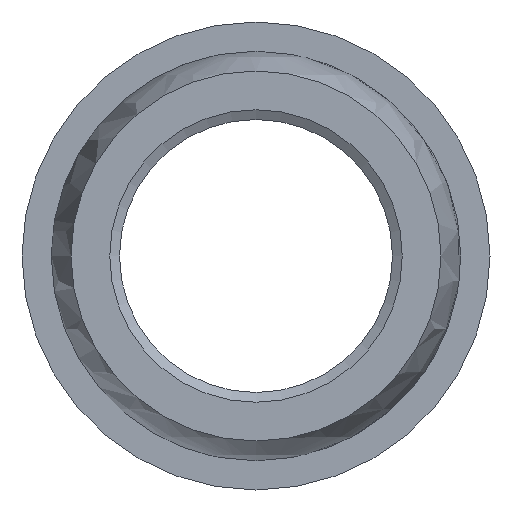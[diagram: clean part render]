
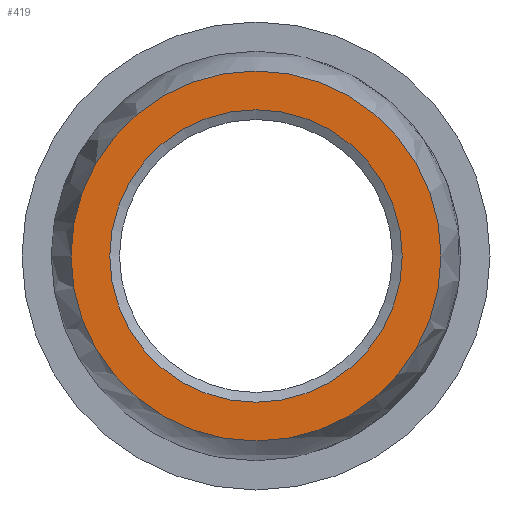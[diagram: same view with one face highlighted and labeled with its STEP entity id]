
A CAD part, front view. The second image highlights one B-rep face of the part: STEP entity #419.
In plain terms, the highlighted planar face has unit normal (0, -1, 0).
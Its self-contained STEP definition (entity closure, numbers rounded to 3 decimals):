
#27=FACE_BOUND('',#74,.T.);
#33=PLANE('',#485);
#46=FACE_OUTER_BOUND('',#73,.T.);
#73=EDGE_LOOP('',(#326));
#74=EDGE_LOOP('',(#327,#328));
#143=CIRCLE('',#484,4.743);
#144=CIRCLE('',#486,3.75);
#145=CIRCLE('',#487,3.75);
#190=VERTEX_POINT('',#739);
#191=VERTEX_POINT('',#742);
#192=VERTEX_POINT('',#743);
#242=EDGE_CURVE('',#190,#190,#143,.T.);
#243=EDGE_CURVE('',#191,#192,#144,.T.);
#244=EDGE_CURVE('',#192,#191,#145,.T.);
#326=ORIENTED_EDGE('',*,*,#242,.T.);
#327=ORIENTED_EDGE('',*,*,#243,.F.);
#328=ORIENTED_EDGE('',*,*,#244,.F.);
#419=ADVANCED_FACE('',(#46,#27),#33,.T.);
#484=AXIS2_PLACEMENT_3D('',#740,#592,#593);
#485=AXIS2_PLACEMENT_3D('',#741,#594,#595);
#486=AXIS2_PLACEMENT_3D('',#744,#596,#597);
#487=AXIS2_PLACEMENT_3D('',#745,#598,#599);
#592=DIRECTION('center_axis',(0.,-1.,0.));
#593=DIRECTION('ref_axis',(1.,0.,0.));
#594=DIRECTION('center_axis',(0.,-1.,0.));
#595=DIRECTION('ref_axis',(0.,0.,-1.));
#596=DIRECTION('center_axis',(0.,-1.,0.));
#597=DIRECTION('ref_axis',(1.,0.,0.));
#598=DIRECTION('center_axis',(0.,-1.,0.));
#599=DIRECTION('ref_axis',(1.,0.,0.));
#739=CARTESIAN_POINT('',(4.743,0.,0.));
#740=CARTESIAN_POINT('Origin',(0.,0.,0.));
#741=CARTESIAN_POINT('Origin',(3.75,0.,0.));
#742=CARTESIAN_POINT('',(3.75,0.,0.));
#743=CARTESIAN_POINT('',(-3.75,0.,0.));
#744=CARTESIAN_POINT('Origin',(0.,0.,0.));
#745=CARTESIAN_POINT('Origin',(0.,0.,0.));
